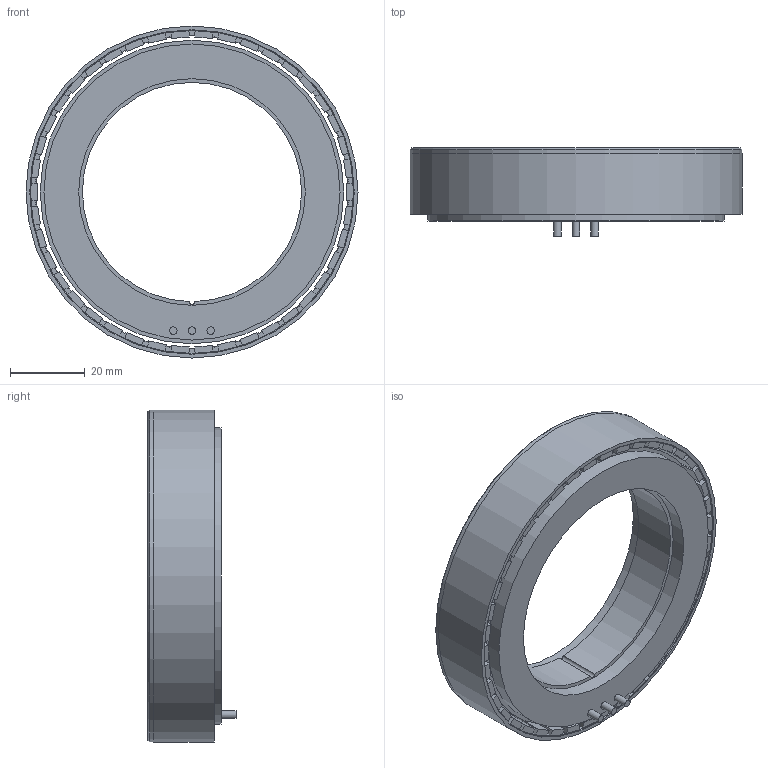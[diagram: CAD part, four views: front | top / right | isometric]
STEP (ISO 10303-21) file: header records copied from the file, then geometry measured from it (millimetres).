
FILE_DESCRIPTION (( 'STEP AP214' ), '1' );
FILE_NAME ('RO80-KV105-lite.STEP', '2024-03-15T08:16:08', ( '微软用户' ), ( '微软中国' ), 'SwSTEP 2.0', 'SolidWorks 2020', '' );
FILE_SCHEMA (( 'AUTOMOTIVE_DESIGN' ));
Length unit declared in the file: millimetre
Products named in the file (1): RO80-KV105-lite
Bounding box: 88.6 x 23.5 x 88.6 mm (x, y, z)
Surface area: 30736.2 mm2 (no closed solid volume)
Topology: 0 solids, 45 shells, 235 faces, 715 edges, 537 vertices
Faces by surface type: plane 219, cylinder 14, cone 2
Full cylindrical faces by diameter (mm): 2 x3, 60.5 x2, 79 x2, 81 x1, 83.6 x1, 86.2 x1, 88.6 x2
Entity records: 10313 total; most frequent: CARTESIAN_POINT 1466, DIRECTION 1282, ORIENTED_EDGE 1059, EDGE_CURVE 697, VECTOR 584, LINE 584, VERTEX_POINT 533, AXIS2_PLACEMENT_3D 349
